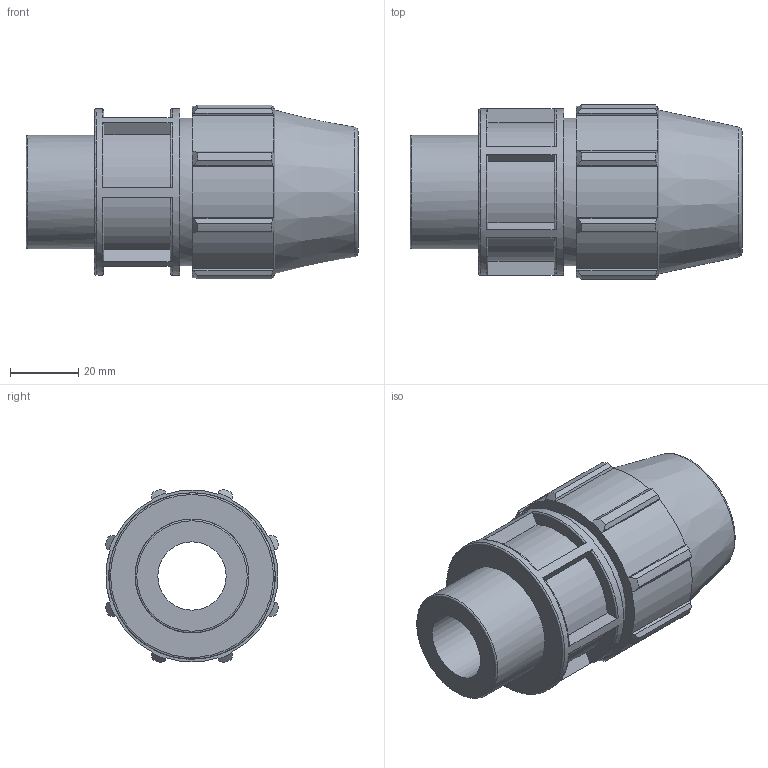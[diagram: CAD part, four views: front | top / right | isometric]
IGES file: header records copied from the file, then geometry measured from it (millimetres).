
Global section: file name: 070200025010_180200025010_0702060250100A.ipt; native system: Autodesk Inventor 2015; preprocessor: unknown; author: KIM; date: 20170606.110152; units: millimetre
Bounding box: 97 x 50.81 x 50.81 mm (x, y, z)
Volume: 98348.5 mm3; surface area: 26397.3 mm2
Topology: 1 solids, 1 shells, 117 faces, 322 edges, 217 vertices
Faces by surface type: plane 63, cylinder 25, revolution 19, cone 10
Full cylindrical faces by diameter (mm): 33.249 x1, 43.2 x1, 48.6 x1
